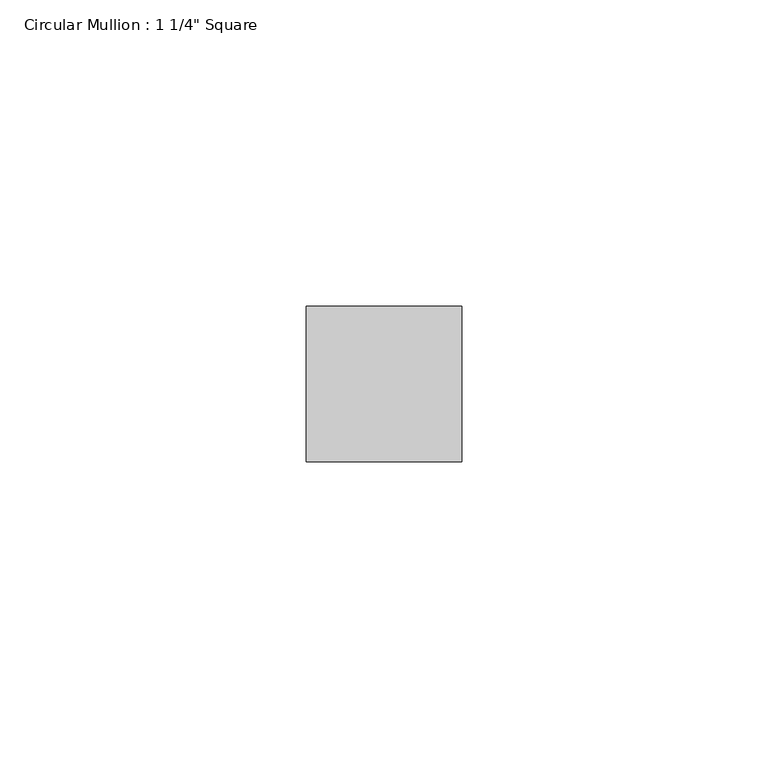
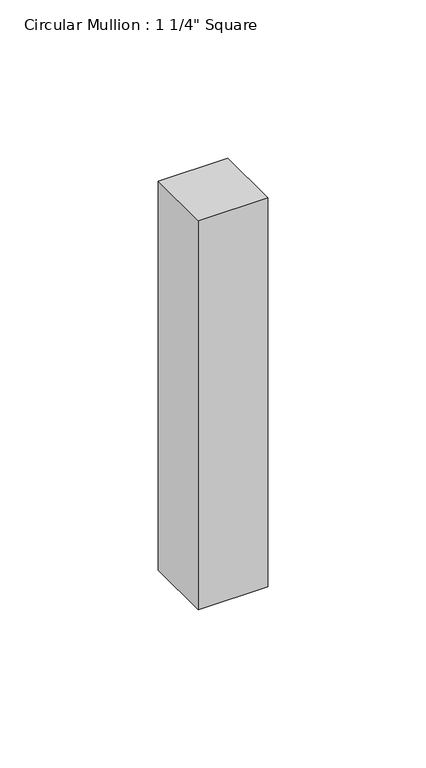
"""IFC4 building model written with IfcOpenShell, lengths in millimetres: member geometry."""

from ifc_helpers import new_model, si_unit, frame, origin, place, context, project, spatial, polyline, outline, extrude, source, transform, mapped, element, save


def member_6e7684cb(model_context):
    return source(origin(), model_context, "Body", "SweptSolid", [
        extrude(outline(polyline([(0.0, 12.7), (0.0, -12.7), (-25.4, -12.7), (-25.4, 12.7), (0.0, 12.7)])), frame((0.0, 0.0, -150.2351629), z_axis=(0.0, 0.0, 1.0), x_axis=(1.0, 0.0, 0.0)), (0.0, 0.0, 1.0), 150.2351629),
    ])


if __name__ == "__main__":
    model = new_model("IFC4")
    model_context = context("Model", 3, world=origin())
    ifc_project = project(units=[si_unit("LENGTHUNIT", "METRE", prefix="MILLI")], contexts=[model_context])
    site = spatial("IfcSite", under=ifc_project)
    building = spatial("IfcBuilding", under=site)
    placement = place(None, origin())
    member_shape = member_6e7684cb(model_context)
    element("IfcMember", 1, ObjectType="Circular Mullion : 1 1/4\" Square", at=placement, inside=building, context=model_context, shape_type="MappedRepresentation", body=[
        mapped(member_shape, transform((0.0, 0.0, 0.0), x_axis=(1.0, 0.0, 0.0), y_axis=(0.0, 1.0, 0.0), z_axis=(0.0, 0.0, 1.0))),
    ])
    save(model, "model.ifc")
